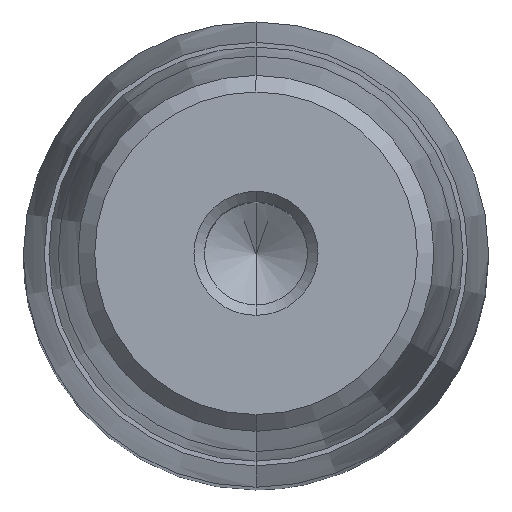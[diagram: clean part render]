
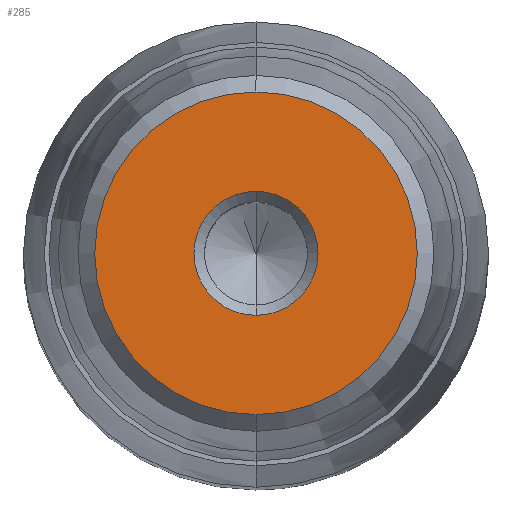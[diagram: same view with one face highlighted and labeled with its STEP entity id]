
A CAD part, top view. The second image highlights one B-rep face of the part: STEP entity #285.
In plain terms, the highlighted planar face has unit normal (0, 0, 1).
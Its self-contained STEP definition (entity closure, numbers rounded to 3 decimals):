
#164=CARTESIAN_POINT('Axis2P3D Location',(0.,0.,48.)) ;
#168=CARTESIAN_POINT('Vertex',(4.,0.,48.)) ;
#170=CARTESIAN_POINT('Vertex',(0.,-4.,48.)) ;
#173=CARTESIAN_POINT('Axis2P3D Location',(0.,0.,48.)) ;
#177=CARTESIAN_POINT('Vertex',(0.,4.,48.)) ;
#228=CARTESIAN_POINT('Axis2P3D Location',(0.,4.,48.)) ;
#233=CARTESIAN_POINT('Axis2P3D Location',(0.,0.,48.)) ;
#237=CARTESIAN_POINT('Vertex',(0.,10.4,48.)) ;
#239=CARTESIAN_POINT('Vertex',(10.4,0.,48.)) ;
#242=CARTESIAN_POINT('Axis2P3D Location',(0.,0.,48.)) ;
#246=CARTESIAN_POINT('Vertex',(-10.4,0.,48.)) ;
#249=CARTESIAN_POINT('Axis2P3D Location',(0.,0.,48.)) ;
#253=CARTESIAN_POINT('Vertex',(0.,-10.4,48.)) ;
#256=CARTESIAN_POINT('Axis2P3D Location',(0.,0.,48.)) ;
#267=CARTESIAN_POINT('Axis2P3D Location',(0.,0.,48.)) ;
#271=CARTESIAN_POINT('Vertex',(-4.,0.,48.)) ;
#274=CARTESIAN_POINT('Axis2P3D Location',(0.,0.,48.)) ;
#165=DIRECTION('Axis2P3D Direction',(0.,0.,1.)) ;
#174=DIRECTION('Axis2P3D Direction',(0.,0.,1.)) ;
#229=DIRECTION('Axis2P3D Direction',(-0.,0.,-1.)) ;
#230=DIRECTION('Axis2P3D XDirection',(0.,1.,0.)) ;
#234=DIRECTION('Axis2P3D Direction',(-0.,0.,-1.)) ;
#243=DIRECTION('Axis2P3D Direction',(-0.,0.,-1.)) ;
#250=DIRECTION('Axis2P3D Direction',(-0.,0.,-1.)) ;
#257=DIRECTION('Axis2P3D Direction',(-0.,0.,-1.)) ;
#268=DIRECTION('Axis2P3D Direction',(-0.,0.,-1.)) ;
#275=DIRECTION('Axis2P3D Direction',(-0.,0.,-1.)) ;
#166=AXIS2_PLACEMENT_3D('Circle Axis2P3D',#164,#165,$) ;
#175=AXIS2_PLACEMENT_3D('Circle Axis2P3D',#173,#174,$) ;
#231=AXIS2_PLACEMENT_3D('Plane Axis2P3D',#228,#229,#230) ;
#235=AXIS2_PLACEMENT_3D('Circle Axis2P3D',#233,#234,$) ;
#244=AXIS2_PLACEMENT_3D('Circle Axis2P3D',#242,#243,$) ;
#251=AXIS2_PLACEMENT_3D('Circle Axis2P3D',#249,#250,$) ;
#258=AXIS2_PLACEMENT_3D('Circle Axis2P3D',#256,#257,$) ;
#269=AXIS2_PLACEMENT_3D('Circle Axis2P3D',#267,#268,$) ;
#276=AXIS2_PLACEMENT_3D('Circle Axis2P3D',#274,#275,$) ;
#262=ORIENTED_EDGE('',*,*,#241,.F.) ;
#263=ORIENTED_EDGE('',*,*,#248,.F.) ;
#264=ORIENTED_EDGE('',*,*,#255,.F.) ;
#265=ORIENTED_EDGE('',*,*,#260,.F.) ;
#280=ORIENTED_EDGE('',*,*,#172,.T.) ;
#281=ORIENTED_EDGE('',*,*,#273,.T.) ;
#282=ORIENTED_EDGE('',*,*,#278,.T.) ;
#283=ORIENTED_EDGE('',*,*,#179,.T.) ;
#284=FACE_BOUND('',#279,.T.) ;
#285=ADVANCED_FACE('722-30x125x158',(#266,#284),#232,.F.) ;
#167=CIRCLE('generated circle',#166,4.) ;
#176=CIRCLE('generated circle',#175,4.) ;
#236=CIRCLE('generated circle',#235,10.4) ;
#245=CIRCLE('generated circle',#244,10.4) ;
#252=CIRCLE('generated circle',#251,10.4) ;
#259=CIRCLE('generated circle',#258,10.4) ;
#270=CIRCLE('generated circle',#269,4.) ;
#277=CIRCLE('generated circle',#276,4.) ;
#172=EDGE_CURVE('',#169,#171,#167,.F.) ;
#179=EDGE_CURVE('',#178,#169,#176,.F.) ;
#241=EDGE_CURVE('',#238,#240,#236,.T.) ;
#248=EDGE_CURVE('',#247,#238,#245,.T.) ;
#255=EDGE_CURVE('',#254,#247,#252,.T.) ;
#260=EDGE_CURVE('',#240,#254,#259,.T.) ;
#273=EDGE_CURVE('',#171,#272,#270,.T.) ;
#278=EDGE_CURVE('',#272,#178,#277,.T.) ;
#261=EDGE_LOOP('',(#262,#263,#264,#265)) ;
#279=EDGE_LOOP('',(#280,#281,#282,#283)) ;
#266=FACE_OUTER_BOUND('',#261,.T.) ;
#232=PLANE('Plane',#231) ;
#169=VERTEX_POINT('',#168) ;
#171=VERTEX_POINT('',#170) ;
#178=VERTEX_POINT('',#177) ;
#238=VERTEX_POINT('',#237) ;
#240=VERTEX_POINT('',#239) ;
#247=VERTEX_POINT('',#246) ;
#254=VERTEX_POINT('',#253) ;
#272=VERTEX_POINT('',#271) ;
